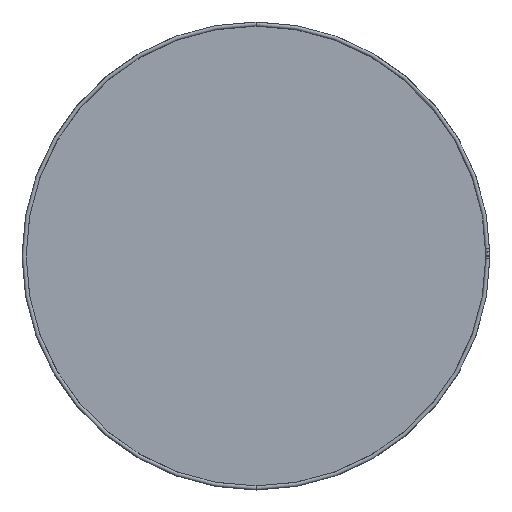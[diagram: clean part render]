
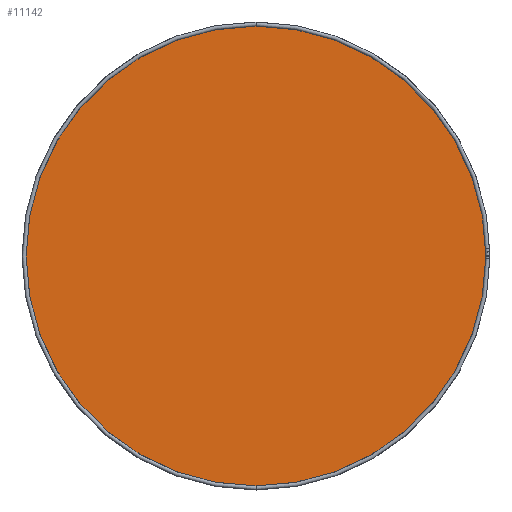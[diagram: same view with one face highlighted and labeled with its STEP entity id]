
A CAD part, front view. The second image highlights one B-rep face of the part: STEP entity #11142.
In plain terms, the highlighted planar face has unit normal (0, -1, 0) as drawn and (0, 0, -1) by its records, which use the part's own axes.
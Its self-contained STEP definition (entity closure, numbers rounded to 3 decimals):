
#33 = DIRECTION ( 'NONE',  ( 0., 0., 1. ) ) ;
#357 = DIRECTION ( 'NONE',  ( 1., 0., 0. ) ) ;
#702 = VERTEX_POINT ( 'NONE', #3137 ) ;
#1345 = ORIENTED_EDGE ( 'NONE', *, *, #17085, .F. ) ;
#2543 = CARTESIAN_POINT ( 'NONE',  ( 892., 0., -11. ) ) ;
#2747 = CARTESIAN_POINT ( 'NONE',  ( 892., 0., -11. ) ) ;
#3137 = CARTESIAN_POINT ( 'NONE',  ( 1784.335, 0., -11. ) ) ;
#4825 = VERTEX_POINT ( 'NONE', #9881 ) ;
#5828 = DIRECTION ( 'NONE',  ( 1., 0., 0. ) ) ;
#7697 = CARTESIAN_POINT ( 'NONE',  ( 892., 0., -11. ) ) ;
#8414 = AXIS2_PLACEMENT_3D ( 'NONE', #7697, #13635, #357 ) ;
#8638 = DIRECTION ( 'NONE',  ( 1., 0., 0. ) ) ;
#9603 = AXIS2_PLACEMENT_3D ( 'NONE', #2543, #33, #5828 ) ;
#9734 = ORIENTED_EDGE ( 'NONE', *, *, #17142, .F. ) ;
#9881 = CARTESIAN_POINT ( 'NONE',  ( -0.335, 0., -11. ) ) ;
#9903 = CIRCLE ( 'NONE', #12394, 892.335 ) ;
#11142 = ADVANCED_FACE ( 'NONE', ( #16549 ), #15104, .F. ) ;
#12394 = AXIS2_PLACEMENT_3D ( 'NONE', #2747, #16041, #8638 ) ;
#12611 = EDGE_LOOP ( 'NONE', ( #9734, #1345 ) ) ;
#13635 = DIRECTION ( 'NONE',  ( 0., 0., 1. ) ) ;
#13940 = CIRCLE ( 'NONE', #9603, 892.335 ) ;
#15104 = PLANE ( 'NONE',  #8414 ) ;
#16041 = DIRECTION ( 'NONE',  ( 0., 0., 1. ) ) ;
#16549 = FACE_OUTER_BOUND ( 'NONE', #12611, .T. ) ;
#17085 = EDGE_CURVE ( 'NONE', #4825, #702, #9903, .T. ) ;
#17142 = EDGE_CURVE ( 'NONE', #702, #4825, #13940, .T. ) ;
